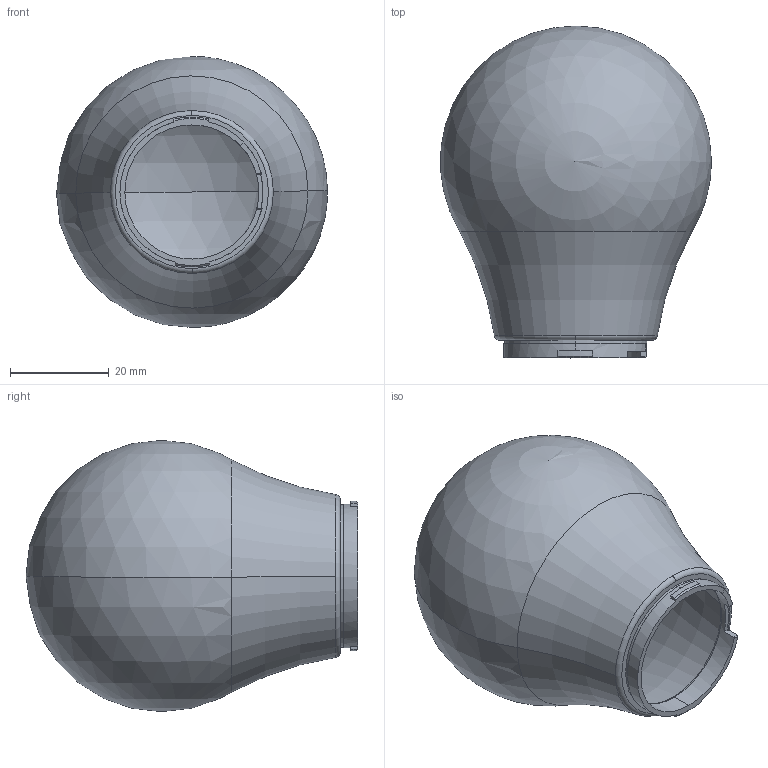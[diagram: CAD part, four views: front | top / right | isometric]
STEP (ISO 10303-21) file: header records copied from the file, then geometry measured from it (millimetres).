
FILE_DESCRIPTION(('FreeCAD Model'),'2;1');
FILE_NAME('Open CASCADE Shape Model','2024-07-09T07:00:24',( 'Lukas Balthasar Pank'),('Astera LED Technology GmbH'), 'Open CASCADE STEP processor 7.6','FreeCAD','Unknown');
FILE_SCHEMA(('AUTOMOTIVE_DESIGN { 1 0 10303 214 1 1 1 1 }'));
Length unit declared in the file: millimetre
Products named in the file (2): FP7-DOME; COVER
Assembly tree (1 placements, depth 2):
  FP7-DOME
    COVER
Bounding box: 54.96 x 67.3 x 55 mm (x, y, z)
Volume: 10325.2 mm3; surface area: 20464.8 mm2
Topology: 1 solids, 1 shells, 42 faces, 118 edges, 76 vertices
Faces by surface type: plane 15, cylinder 12, torus 8, sphere 4, cone 3
Entity records: 1451 total; most frequent: CARTESIAN_POINT 294, DIRECTION 252, ORIENTED_EDGE 228, EDGE_CURVE 114, AXIS2_PLACEMENT_3D 106, VERTEX_POINT 76, CIRCLE 62, FACE_BOUND 44
